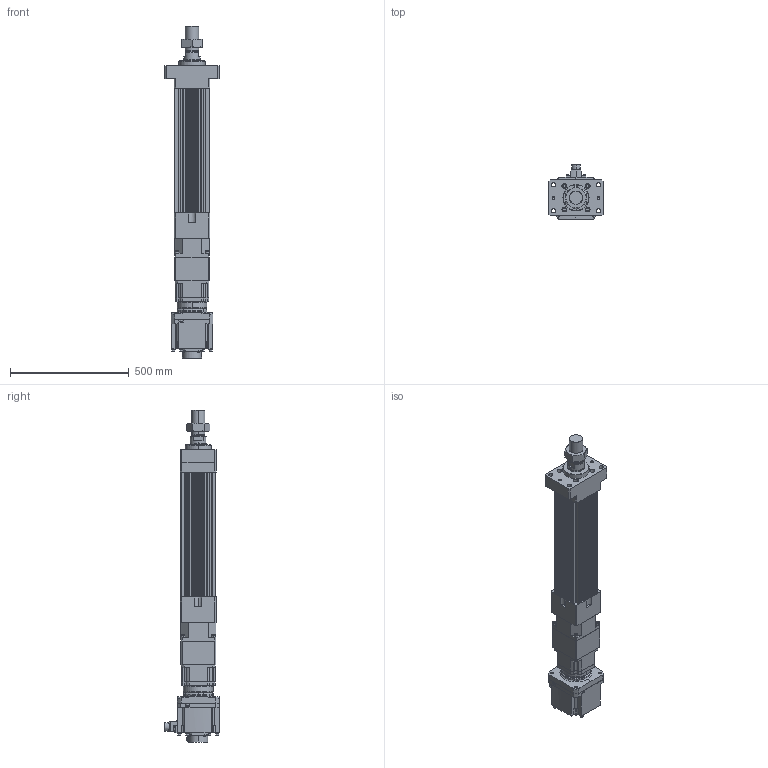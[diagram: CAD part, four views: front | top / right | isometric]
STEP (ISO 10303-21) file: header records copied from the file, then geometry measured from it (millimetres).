
FILE_DESCRIPTION (( 'STEP AP203' ), '1' );
FILE_NAME ('HES150NS(HS)-S250-W035G00-M-FM.STEP', '2023-02-01T04:26:48', ( 'tms' ), ( '' ), 'SwSTEP 2.0', 'SolidWorks 2013', '' );
FILE_SCHEMA (( 'CONFIG_CONTROL_DESIGN' ));
Length unit declared in the file: millimetre
Products named in the file (9): AB142-003[HG-SR352]; P1301500001; P0403500801; HES150-S250-G142-FM; M56X2.0P; HES150 ROD M ST250; HG-SR352; AB1421; HES150NS(HS)-S250-W035G00-M-FM
Assembly tree (8 placements, depth 3):
  HES150NS(HS)-S250-W035G00-M-FM
    HES150-S250-G142-FM
    HES150 ROD M ST250
    M56X2.0P
    AB142-003[HG-SR352]
      AB1421
      P1301500001
      P0403500801
    HG-SR352
Bounding box: 230 x 228.85 x 1397.5 mm (x, y, z)
Volume: 16174842.2 mm3; surface area: 1699093.8 mm2
Topology: 5 solids, 23 shells, 1508 faces, 3908 edges, 2538 vertices
Faces by surface type: cylinder 687, plane 587, cone 152, bspline 76, torus 6
Entity records: 55082 total; most frequent: CARTESIAN_POINT 16753, DIRECTION 8014, ORIENTED_EDGE 7718, EDGE_CURVE 3881, AXIS2_PLACEMENT_3D 3024, VERTEX_POINT 2538, VECTOR 1966, LINE 1966
